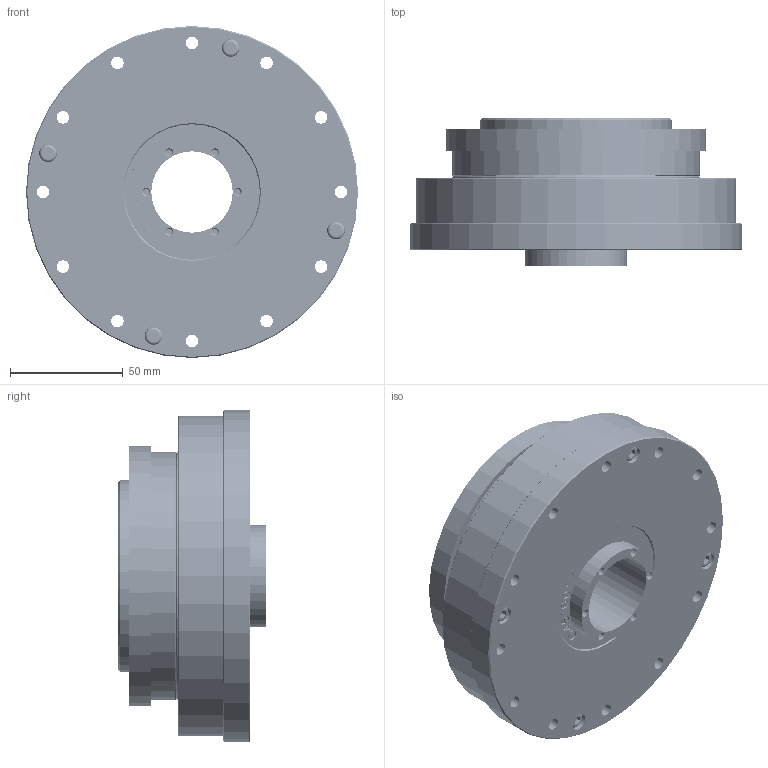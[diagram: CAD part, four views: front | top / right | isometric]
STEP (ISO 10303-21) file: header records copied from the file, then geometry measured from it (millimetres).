
FILE_DESCRIPTION(/* description */ (''),/* implementation_level */ '2;1');
FILE_NAME(/* name */ 'XBK32成品图.prt.stp',/* time_stamp */ '2022-05-21T13:34:11+08:00',/* author */ (''),/* organization */ (''),/* preprocessor_version */ 'ST-DEVELOPER v16',/* originating_system */ 'SIEMENS PLM Software NX 10.0',/* authorisation */ '');
FILE_SCHEMA (('CONFIG_CONTROL_DESIGN'));
Products named in the file (18): 32柔性轴承保持架(日标）; YM4X16; M4X22; 深沟球轴承6809Z; XBK32-3-1凸轮; G1101226; G45555; G45607; XBK32-6上盖板; XBK32-1钢轮; 深沟球轴承6909Z; M3X 8; XBK32-4-1-1销子; XBK32-4-1内芯; XBK32-4-2外圈; XBK32-2柔轮; 32柔性轴承(日标）_MODEL; XBK32成品图
Assembly tree (23 placements, depth 3):
  XBK32成品图
    XBK32-2柔轮
    XBK32-4-2外圈
    XBK32-4-1内芯
    XBK32-4-1-1销子
    M3X 8
    深沟球轴承6909Z
    XBK32-1钢轮
    XBK32-6上盖板
    G45607
    G45555
    G1101226
    XBK32-3-1凸轮
    32柔性轴承(日标）_MODEL
      32柔性轴承保持架(日标）
    深沟球轴承6809Z
    M4X22  x4
    YM4X16  x4
Bounding box: 147 x 65.5 x 147 mm (x, y, z)
Volume: 536866.1 mm3; surface area: 295973.3 mm2
Topology: 93 solids, 93 shells, 1379 faces, 3483 edges, 2290 vertices
Faces by surface type: plane 558, cylinder 319, cone 175, bspline 121, extrusion 121, sphere 66, torus 19
Full cylindrical faces by diameter (mm): 3.5 x1, 4.5 x16, 5.5 x68, 5.6 x1, 6 x1, 7.22 x4, 7.5 x4, 7.8 x4, 8 x8, 36 x1, 43 x1, 44.5 x2, 45 x7, 47 x1, 48 x4, 50 x2, 51 x1, 52 x1, 55 x5, 56 x1, 58 x2, 58.928 x1, 60 x2, 62 x2, 63 x2, 63.028 x2, 65.3 x1, 68 x2, 70 x1, 74.3 x1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
Entity records: 161196 total; most frequent: CARTESIAN_POINT 133487, ORIENTED_EDGE 4968, DIRECTION 4544, EDGE_CURVE 2484, VERTEX_POINT 1887, AXIS2_PLACEMENT_3D 1852, EDGE_LOOP 1826, ADVANCED_FACE 1230
